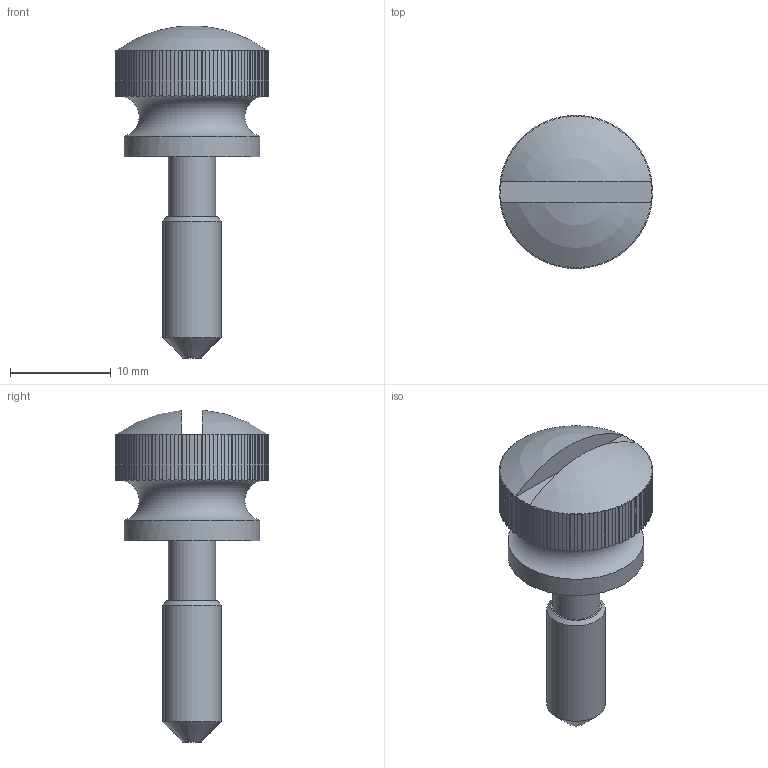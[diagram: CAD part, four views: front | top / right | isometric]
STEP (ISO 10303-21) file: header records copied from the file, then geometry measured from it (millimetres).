
FILE_DESCRIPTION(/* description */ (''),/* implementation_level */ '2;1');
FILE_NAME(/* name */ '\\SYNOLOGYNAS\web\db2\K-HSH15-M5_M\도면\M6\K-HSH15-M6-20.stp',/* time_stamp */ '2024-10-14T14:12:09+09:00',/* author */ ('user'),/* organization */ (''),/* preprocessor_version */ 'ST-DEVELOPER v15.6',/* originating_system */ 'Autodesk Inventor 2015',/* authorisation */ '');
FILE_SCHEMA (('AUTOMOTIVE_DESIGN { 1 0 10303 214 3 1 1 }'));
Length unit declared in the file: millimetre
Products named in the file (1): K-HSH15-M6-20
Bounding box: 15.19 x 15.2 x 32.96 mm (x, y, z)
Volume: 2124.5 mm3; surface area: 1306.9 mm2
Topology: 1 solids, 1 shells, 308 faces, 798 edges, 494 vertices
Faces by surface type: plane 240, cylinder 63, cone 2, sphere 2, torus 1
Full cylindrical faces by diameter (mm): 4.7 x1, 5.8 x1, 13.5 x1
Entity records: 9514 total; most frequent: CARTESIAN_POINT 2251, ORIENTED_EDGE 1580, DIRECTION 1416, EDGE_CURVE 790, AXIS2_PLACEMENT_3D 497, VERTEX_POINT 492, LINE 422, VECTOR 422
